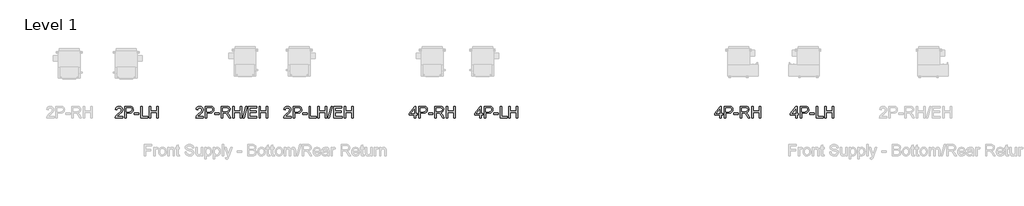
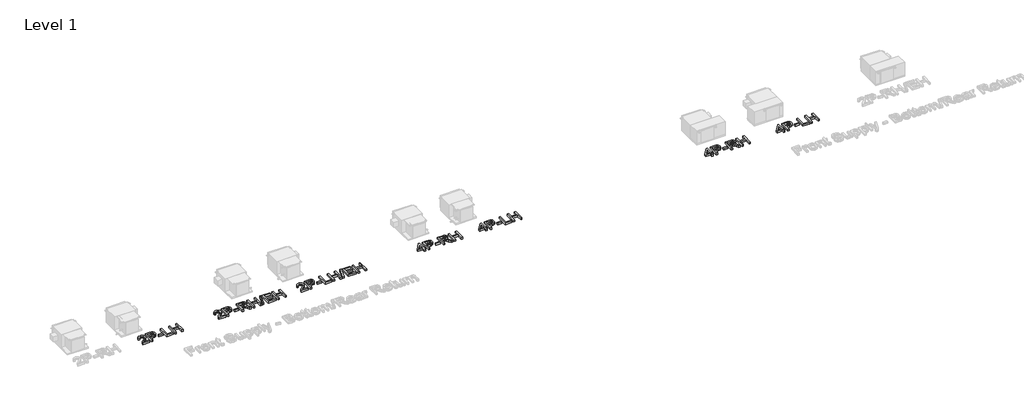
# One storey, part 3 of 5: 7 proxies.
"""IFC4 building model written with IfcOpenShell, lengths in millimetres."""

import ifcopenshell
import ifcopenshell.guid

model = None  # the IFC model being written
_history = None  # IfcOwnerHistory: only IFC2X3 demands one
_inside = {}  # id of a spatial element -> (the spatial element, [elements in it])
_under = {}  # id of a project, library or spatial element -> (it, [spatial elements below it])
_declared = {}  # id of a project -> (the project, [libraries it declares])
_typed = {}  # id of a type object -> (the type object, [elements of that type])
_made_of = {}  # id of a material, layer set ... -> (it, [elements and type objects made of it])


def new_model(schema):
    """Start an empty IFC model of exactly this schema.

    Asked for "IFC4X3", IfcOpenShell would pick the latest addendum, in which some entities
    have other attributes; the version numbers below select the first issue.
    IFC2X3 requires an IfcOwnerHistory on every rooted entity: one is made here for all.
    """
    global model, _history
    if schema == "IFC4X3":
        model = ifcopenshell.file(schema_version=(4, 3, 0, 0))
    else:
        model = ifcopenshell.file(schema=schema)
    _inside.clear()
    _under.clear()
    _declared.clear()
    _typed.clear()
    _made_of.clear()
    _history = None
    if model.schema == "IFC2X3":
        org = make("IfcOrganization", Name="unknown")
        user = make(
            "IfcPersonAndOrganization",
            ThePerson=make("IfcPerson", FamilyName="unknown"),
            TheOrganization=org,
        )
        app = make(
            "IfcApplication",
            ApplicationDeveloper=org,
            Version="unknown",
            ApplicationFullName="unknown",
            ApplicationIdentifier="unknown",
        )
        _history = make(
            "IfcOwnerHistory",
            OwningUser=user,
            OwningApplication=app,
            ChangeAction="ADDED",
            CreationDate=0,
        )
    return model


def make(cls, **values):
    """One entity of the class cls with the attributes given. An attribute that is None is left unset."""
    return model.create_entity(
        cls, **{name: value for name, value in values.items() if value is not None}
    )


def rooted(cls, **values):
    """An entity with a GlobalId (a new one), such as an element, a storey or a relation."""
    return make(cls, GlobalId=ifcopenshell.guid.new(), OwnerHistory=_history, **values)


def si_unit(unit_type, name, prefix=None):
    """IfcSIUnit, for example si_unit("LENGTHUNIT", "METRE", prefix="MILLI")."""
    return make("IfcSIUnit", UnitType=unit_type, Prefix=prefix, Name=name)


def assignment(units):
    """IfcUnitAssignment: the units of a project."""
    return None if units is None else make("IfcUnitAssignment", Units=units)


def point(xyz):
    """IfcCartesianPoint."""
    return None if xyz is None else make("IfcCartesianPoint", Coordinates=xyz)


def direction(xyz):
    """IfcDirection."""
    return None if xyz is None else make("IfcDirection", DirectionRatios=xyz)


def frame(location, z_axis=None, x_axis=None):
    """IfcAxis2Placement3D, a coordinate frame: its origin and axes. An axis left out is left unset."""
    return make(
        "IfcAxis2Placement3D",
        Location=point(location),
        Axis=direction(z_axis),
        RefDirection=direction(x_axis),
    )


def origin():
    """The frame at (0, 0, 0) with its axes left unset."""
    return frame((0.0, 0.0, 0.0))


def origin_with_axes():
    """The frame at (0, 0, 0) with the z axis (0, 0, 1) and the x axis (1, 0, 0) written out."""
    return frame((0.0, 0.0, 0.0), z_axis=(0.0, 0.0, 1.0), x_axis=(1.0, 0.0, 0.0))


def place(relative_to, where):
    """IfcLocalPlacement: puts the frame where relative to a parent placement (None: the world)."""
    return make(
        "IfcLocalPlacement", PlacementRelTo=relative_to, RelativePlacement=where
    )


def context(
    kind, dimensions, precision=None, world=None, true_north=None, identifier=None
):
    """IfcGeometricRepresentationContext, for example the 3D "Model" context."""
    return make(
        "IfcGeometricRepresentationContext",
        ContextIdentifier=identifier,
        ContextType=kind,
        CoordinateSpaceDimension=dimensions,
        Precision=precision,
        WorldCoordinateSystem=world,
        TrueNorth=true_north,
    )


def project(units=None, contexts=None):
    """IfcProject with its units and contexts."""
    return rooted(
        "IfcProject",
        Name="project",
        RepresentationContexts=contexts,
        UnitsInContext=assignment(units),
    )


def spatial(cls, under=None, at=None, **own):
    """A site, building, storey or space (cls), placed at a placement, below another one or the project."""
    s = rooted(cls, ObjectPlacement=at, **own)
    if under is not None:
        _under.setdefault(under.id(), (under, []))[1].append(s)
    return s


def polyline(points):
    """IfcPolyline through the points."""
    return make("IfcPolyline", Points=[point(p) for p in points])


def outline(outer, holes=None, kind="AREA"):
    """IfcArbitraryClosedProfileDef: a profile drawn as a closed curve; with holes, ...WithVoids."""
    if holes is None:
        return make("IfcArbitraryClosedProfileDef", ProfileType=kind, OuterCurve=outer)
    return make(
        "IfcArbitraryProfileDefWithVoids",
        ProfileType=kind,
        OuterCurve=outer,
        InnerCurves=holes,
    )


def extrude(swept, where, along, depth):
    """IfcExtrudedAreaSolid: the profile swept, set in the frame where, extruded along a direction by depth."""
    return make(
        "IfcExtrudedAreaSolid",
        SweptArea=swept,
        Position=where,
        ExtrudedDirection=direction(along),
        Depth=depth,
    )


def shape(context_of_items, identifier, shape_type, items):
    """IfcShapeRepresentation: the items that make up one representation, for example the "Body"."""
    return make(
        "IfcShapeRepresentation",
        ContextOfItems=context_of_items,
        RepresentationIdentifier=identifier,
        RepresentationType=shape_type,
        Items=items,
    )


def made_of(thing, what):
    """Note that an element or type object is made of a material, layer set ...; save() writes the relation."""
    if what is not None:
        _made_of.setdefault(what.id(), (what, []))[1].append(thing)
    return thing


def element(
    cls,
    number,
    at=None,
    inside=None,
    cuts=None,
    type_object=None,
    material=None,
    context=None,
    identifier="Body",
    shape_type=None,
    held_by="IfcProductDefinitionShape",
    body=None,
    shapes=None,
    **own,
):
    """One element of the class cls, such as IfcWall. Its Tag is "e" and its number.

    at: its placement. inside: the storey or other place that contains it. cuts: it is an
    opening in that element (IfcRelVoidsElement). A single representation is given by context,
    identifier, shape_type and body (its items); several are given by shapes. held_by: the class
    of the entity that holds the representations. save() writes the other relations.
    """
    e = rooted(cls, Tag="e%d" % number, ObjectPlacement=at, **own)
    if body is not None:
        shapes = [shape(context, identifier, shape_type, body)]
    if shapes is not None:
        e.Representation = make(held_by, Representations=shapes)
    if inside is not None:
        _inside.setdefault(inside.id(), (inside, []))[1].append(e)
    if cuts is not None:
        rooted(
            "IfcRelVoidsElement", RelatingBuildingElement=cuts, RelatedOpeningElement=e
        )
    if type_object is not None:
        _typed.setdefault(type_object.id(), (type_object, []))[1].append(e)
    return made_of(e, material)


def aggregate(whole, parts):
    """IfcRelAggregates: a whole, such as a stair, and the parts it consists of."""
    return rooted("IfcRelAggregates", RelatingObject=whole, RelatedObjects=parts)


def save(model, path):
    """Write the relations noted so far, then the file.

    IfcRelAggregates (storeys below a building ...), IfcRelContainedInSpatialStructure (elements
    in a storey), IfcRelDefinesByType, IfcRelAssociatesMaterial and IfcRelDeclares: one each for
    every whole, place, type object, material and project.
    """
    for whole, parts in _under.values():
        aggregate(whole, parts)
    for where, things in _inside.values():
        rooted(
            "IfcRelContainedInSpatialStructure",
            RelatedElements=things,
            RelatingStructure=where,
        )
    for kind, things in _typed.values():
        rooted("IfcRelDefinesByType", RelatedObjects=things, RelatingType=kind)
    for what, things in _made_of.values():
        rooted("IfcRelAssociatesMaterial", RelatedObjects=things, RelatingMaterial=what)
    for by, libraries in _declared.values():
        rooted("IfcRelDeclares", RelatingContext=by, RelatedDefinitions=libraries)
    model.write(path)


model = new_model("IFC4")

# Units and contexts
model_context = context("Model", 3, world=origin())
ifc_project = project(units=[si_unit("LENGTHUNIT", "METRE", prefix="MILLI")], contexts=[model_context])

# Site, building, storey
site = spatial("IfcSite", under=ifc_project)
building = spatial("IfcBuilding", under=site)
storey = spatial("IfcBuildingStorey", under=building, Name="Level 1", Elevation=0.0)

# Proxies
placement = place(None, origin())
element("IfcBuildingElementProxy", 1, Name="24\" Arial", ObjectType="24\" Arial", at=placement, inside=storey, context=model_context, shape_type="SweptSolid", body=[
    extrude(outline(polyline([(-27817.7253142, -9425.9108404), (-27817.7253142, -9463.9817271), (-28017.5974697, -9463.9817271), (-28013.5078237, -9437.7336353), (-28004.1202271, -9417.2203425), (-27990.3827342, -9397.3204967), (-27970.5107724, -9376.4911859), (-27942.7197686, -9353.1894981), (-27901.6374152, -9316.6987018), (-27876.9880032, -9289.7628059), (-27864.6632972, -9267.9017889), (-27860.5550618, -9246.6356295), (-27864.4309309, -9227.5723022), (-27876.0585382, -9211.7249238), (-27893.9321503, -9201.0453708), (-27916.5460339, -9197.4855198), (-27940.2938649, -9200.961719), (-27958.7437453, -9211.3903164), (-27970.6501921, -9227.9533828), (-27974.7677221, -9249.8329891), (-28012.8386089, -9245.0741283), (-28009.5645684, -9225.4205907), (-28003.6090213, -9208.2487246), (-27994.9719677, -9193.5585302), (-27983.6534076, -9181.3500073), (-27969.9135911, -9171.7532811), (-27954.0127684, -9164.8984766), (-27915.7281047, -9159.4146331), (-27895.3240241, -9160.9389557), (-27877.1646015, -9165.5119235), (-27861.2498369, -9173.1335366), (-27847.5797303, -9183.8037949), (-27836.6004249, -9196.7326532), (-27828.7580639, -9211.1300662), (-27824.0526473, -9226.9960339), (-27822.4841751, -9244.3305563), (-27824.1758014, -9262.5387758), (-27829.2506803, -9280.4309772), (-27838.2571963, -9298.6299021), (-27851.7437335, -9317.758292), (-27873.2422592, -9340.5952472), (-27906.2847402, -9369.9198682), (-27950.0811315, -9406.5407896), (-27967.2576448, -9425.9108404), (-27817.7253142, -9425.9108404)])), origin_with_axes(), (0.0, 0.0, 1.0), 50.8),
    extrude(outline(polyline([(-27765.3778449, -9463.9817271), (-27765.3778449, -9159.4146331), (-27652.5036143, -9159.4146331), (-27606.9970074, -9162.3145639), (-27586.7067863, -9167.7333449), (-27570.0043001, -9176.5539678), (-27556.5549414, -9189.1761026), (-27546.0241029, -9205.9994193), (-27539.220419, -9225.8434972), (-27536.9525244, -9247.5279159), (-27538.483818, -9266.2241045), (-27543.0776988, -9283.4238545), (-27550.7341668, -9299.1271659), (-27561.453222, -9313.3340385), (-27576.1689768, -9325.1103602), (-27595.8155434, -9333.5220185), (-27620.3929219, -9338.5690135), (-27649.9011122, -9340.2513452), (-27727.3069582, -9340.2513452), (-27727.3069582, -9463.9817271), (-27765.3778449, -9463.9817271)]), holes=[polyline([(-27727.3069582, -9302.1804584), (-27647.6703962, -9302.1804584), (-27613.9122271, -9298.68567), (-27591.6050669, -9288.2013047), (-27579.1688251, -9271.377988), (-27575.0234111, -9248.8663455), (-27577.4679041, -9231.7641893), (-27584.801383, -9217.3388924), (-27596.1129722, -9206.4827411), (-27610.4917959, -9200.0880218), (-27648.5626826, -9197.4855198), (-27727.3069582, -9197.4855198), (-27727.3069582, -9302.1804584)])]), origin_with_axes(), (0.0, 0.0, 1.0), 50.8),
    extrude(outline(polyline([(-27508.3993593, -9373.5633711), (-27508.3993593, -9335.4924843), (-27389.4278382, -9335.4924843), (-27389.4278382, -9373.5633711), (-27508.3993593, -9373.5633711)])), origin_with_axes(), (0.0, 0.0, 1.0), 50.8),
    extrude(outline(polyline([(-27341.8392297, -9463.9817271), (-27341.8392297, -9159.4146331), (-27303.768343, -9159.4146331), (-27303.768343, -9425.9108404), (-27151.4847959, -9425.9108404), (-27151.4847959, -9463.9817271), (-27341.8392297, -9463.9817271)])), origin_with_axes(), (0.0, 0.0, 1.0), 50.8),
    extrude(outline(polyline([(-27108.6550483, -9463.9817271), (-27108.6550483, -9159.4146331), (-27070.5841616, -9159.4146331), (-27070.5841616, -9283.145015), (-26908.7828929, -9283.145015), (-26908.7828929, -9159.4146331), (-26870.7120061, -9159.4146331), (-26870.7120061, -9463.9817271), (-26908.7828929, -9463.9817271), (-26908.7828929, -9321.2159018), (-27070.5841616, -9321.2159018), (-27070.5841616, -9463.9817271), (-27108.6550483, -9463.9817271)])), origin_with_axes(), (0.0, 0.0, 1.0), 50.8),
])
element("IfcBuildingElementProxy", 2, Name="24\" Arial", ObjectType="24\" Arial", at=placement, inside=storey, context=model_context, shape_type="SweptSolid", body=[
    extrude(outline(polyline([(-25666.6607584, -9425.9108404), (-25666.6607584, -9463.9817271), (-25866.5329139, -9463.9817271), (-25862.4432679, -9437.7336353), (-25853.0556713, -9417.2203425), (-25839.3181784, -9397.3204967), (-25819.4462166, -9376.4911859), (-25791.6552128, -9353.1894981), (-25750.5728594, -9316.6987018), (-25725.9234474, -9289.7628059), (-25713.5987414, -9267.9017889), (-25709.490506, -9246.6356295), (-25713.3663751, -9227.5723022), (-25724.9939824, -9211.7249238), (-25742.8675945, -9201.0453708), (-25765.4814781, -9197.4855198), (-25789.2293091, -9200.961719), (-25807.6791895, -9211.3903164), (-25819.5856363, -9227.9533828), (-25823.7031663, -9249.8329891), (-25861.7740531, -9245.0741283), (-25858.5000126, -9225.4205907), (-25852.5444655, -9208.2487246), (-25843.9074119, -9193.5585302), (-25832.5888518, -9181.3500073), (-25818.8490353, -9171.7532811), (-25802.9482126, -9164.8984766), (-25764.6635489, -9159.4146331), (-25744.2594683, -9160.9389557), (-25726.1000457, -9165.5119235), (-25710.1852811, -9173.1335366), (-25696.5151745, -9183.8037949), (-25685.5358691, -9196.7326532), (-25677.6935081, -9211.1300662), (-25672.9880915, -9226.9960339), (-25671.4196193, -9244.3305563), (-25673.1112456, -9262.5387758), (-25678.1861245, -9280.4309772), (-25687.1926405, -9298.6299021), (-25700.6791777, -9317.758292), (-25722.1777034, -9340.5952472), (-25755.2201844, -9369.9198682), (-25799.0165757, -9406.5407896), (-25816.193089, -9425.9108404), (-25666.6607584, -9425.9108404)])), origin_with_axes(), (0.0, 0.0, 1.0), 50.8),
    extrude(outline(polyline([(-25614.3132891, -9463.9817271), (-25614.3132891, -9159.4146331), (-25501.4390585, -9159.4146331), (-25455.9324516, -9162.3145639), (-25435.6422305, -9167.7333449), (-25418.9397443, -9176.5539678), (-25405.4903856, -9189.1761026), (-25394.9595471, -9205.9994193), (-25388.1558632, -9225.8434972), (-25385.8879686, -9247.5279159), (-25387.4192622, -9266.2241045), (-25392.013143, -9283.4238545), (-25399.669611, -9299.1271659), (-25410.3886662, -9313.3340385), (-25425.104421, -9325.1103602), (-25444.7509876, -9333.5220185), (-25469.3283661, -9338.5690135), (-25498.8365564, -9340.2513452), (-25576.2424024, -9340.2513452), (-25576.2424024, -9463.9817271), (-25614.3132891, -9463.9817271)]), holes=[polyline([(-25576.2424024, -9302.1804584), (-25496.6058404, -9302.1804584), (-25462.8476713, -9298.68567), (-25440.5405111, -9288.2013047), (-25428.1042693, -9271.377988), (-25423.9588553, -9248.8663455), (-25426.4033483, -9231.7641893), (-25433.7368272, -9217.3388924), (-25445.0484164, -9206.4827411), (-25459.4272401, -9200.0880218), (-25497.4981268, -9197.4855198), (-25576.2424024, -9197.4855198), (-25576.2424024, -9302.1804584)])]), origin_with_axes(), (0.0, 0.0, 1.0), 50.8),
    extrude(outline(polyline([(-25357.3348035, -9373.5633711), (-25357.3348035, -9335.4924843), (-25238.3632824, -9335.4924843), (-25238.3632824, -9373.5633711), (-25357.3348035, -9373.5633711)])), origin_with_axes(), (0.0, 0.0, 1.0), 50.8),
    extrude(outline(polyline([(-25190.7746739, -9463.9817271), (-25190.7746739, -9159.4146331), (-25059.5342147, -9159.4146331), (-25024.2610176, -9161.4687507), (-24998.5984887, -9167.6311037), (-24979.8418848, -9179.0077554), (-24965.2864628, -9196.7047692), (-24955.9453395, -9218.6494381), (-24952.8316317, -9242.769055), (-24957.9901625, -9272.7721855), (-24973.4657549, -9297.6446692), (-24985.1886323, -9307.7804851), (-24999.7231414, -9315.8807726), (-25037.2270545, -9325.9747626), (-25015.5891091, -9342.2589896), (-24984.7308708, -9381.4452344), (-24933.9449027, -9463.9817271), (-24978.1874371, -9463.9817271), (-25017.8198251, -9400.8524637), (-25046.4473474, -9359.0637169), (-25066.5609702, -9339.3218802), (-25084.6669485, -9332.0720531), (-25106.7510371, -9330.7336235), (-25152.7037872, -9330.7336235), (-25152.7037872, -9463.9817271), (-25190.7746739, -9463.9817271)]), holes=[polyline([(-25152.7037872, -9292.6627367), (-25067.4904352, -9292.6627367), (-25043.0176215, -9291.3150125), (-25024.0286514, -9287.2718397), (-25009.7334795, -9280.2636735), (-24999.3420607, -9270.0209691), (-24993.012404, -9257.6312005), (-24990.9025185, -9244.1818419), (-24994.9271019, -9225.611131), (-25007.0008524, -9210.6467443), (-25027.7743953, -9200.775826), (-25057.8983563, -9197.4855198), (-25152.7037872, -9197.4855198), (-25152.7037872, -9292.6627367)])]), origin_with_axes(), (0.0, 0.0, 1.0), 50.8),
    extrude(outline(polyline([(-24886.2075799, -9463.9817271), (-24886.2075799, -9159.4146331), (-24848.1366931, -9159.4146331), (-24848.1366931, -9283.145015), (-24686.3354244, -9283.145015), (-24686.3354244, -9159.4146331), (-24648.2645376, -9159.4146331), (-24648.2645376, -9463.9817271), (-24686.3354244, -9463.9817271), (-24686.3354244, -9321.2159018), (-24848.1366931, -9321.2159018), (-24848.1366931, -9463.9817271), (-24886.2075799, -9463.9817271)])), origin_with_axes(), (0.0, 0.0, 1.0), 50.8),
    extrude(outline(polyline([(-24614.9525117, -9463.9817271), (-24529.2930165, -9159.4146331), (-24494.9399898, -9159.4146331), (-24580.599485, -9463.9817271), (-24614.9525117, -9463.9817271)])), origin_with_axes(), (0.0, 0.0, 1.0), 50.8),
    extrude(outline(polyline([(-24462.6689647, -9463.9817271), (-24462.6689647, -9159.4146331), (-24243.7613658, -9159.4146331), (-24243.7613658, -9197.4855198), (-24424.5980779, -9197.4855198), (-24424.5980779, -9287.9038759), (-24253.2790875, -9287.9038759), (-24253.2790875, -9325.9747626), (-24424.5980779, -9325.9747626), (-24424.5980779, -9425.9108404), (-24239.002505, -9425.9108404), (-24239.002505, -9463.9817271), (-24462.6689647, -9463.9817271)])), origin_with_axes(), (0.0, 0.0, 1.0), 50.8),
    extrude(outline(polyline([(-24181.8961748, -9463.9817271), (-24181.8961748, -9159.4146331), (-24143.8252881, -9159.4146331), (-24143.8252881, -9283.145015), (-23982.0240193, -9283.145015), (-23982.0240193, -9159.4146331), (-23943.9531326, -9159.4146331), (-23943.9531326, -9463.9817271), (-23982.0240193, -9463.9817271), (-23982.0240193, -9321.2159018), (-24143.8252881, -9321.2159018), (-24143.8252881, -9463.9817271), (-24181.8961748, -9463.9817271)])), origin_with_axes(), (0.0, 0.0, 1.0), 50.8),
])
element("IfcBuildingElementProxy", 3, Name="24\" Arial", ObjectType="24\" Arial", at=placement, inside=storey, context=model_context, shape_type="SweptSolid", body=[
    extrude(outline(polyline([(-23321.9631764, -9425.9108404), (-23321.9631764, -9463.9817271), (-23521.8353319, -9463.9817271), (-23517.7456859, -9437.7336353), (-23508.3580893, -9417.2203425), (-23494.6205964, -9397.3204967), (-23474.7486346, -9376.4911859), (-23446.9576308, -9353.1894981), (-23405.8752774, -9316.6987018), (-23381.2258654, -9289.7628059), (-23368.9011594, -9267.9017889), (-23364.792924, -9246.6356295), (-23368.6687931, -9227.5723022), (-23380.2964004, -9211.7249238), (-23398.1700125, -9201.0453708), (-23420.7838961, -9197.4855198), (-23444.5317271, -9200.961719), (-23462.9816075, -9211.3903164), (-23474.8880543, -9227.9533828), (-23479.0055843, -9249.8329891), (-23517.0764711, -9245.0741283), (-23513.8024306, -9225.4205907), (-23507.8468835, -9208.2487246), (-23499.2098299, -9193.5585302), (-23487.8912698, -9181.3500073), (-23474.1514533, -9171.7532811), (-23458.2506306, -9164.8984766), (-23419.9659669, -9159.4146331), (-23399.5618863, -9160.9389557), (-23381.4024637, -9165.5119235), (-23365.4876991, -9173.1335366), (-23351.8175925, -9183.8037949), (-23340.8382871, -9196.7326532), (-23332.9959261, -9211.1300662), (-23328.2905095, -9226.9960339), (-23326.7220373, -9244.3305563), (-23328.4136636, -9262.5387758), (-23333.4885425, -9280.4309772), (-23342.4950585, -9298.6299021), (-23355.9815957, -9317.758292), (-23377.4801214, -9340.5952472), (-23410.5226024, -9369.9198682), (-23454.3189937, -9406.5407896), (-23471.495507, -9425.9108404), (-23321.9631764, -9425.9108404)])), origin_with_axes(), (0.0, 0.0, 1.0), 50.8),
    extrude(outline(polyline([(-23269.6157071, -9463.9817271), (-23269.6157071, -9159.4146331), (-23156.7414765, -9159.4146331), (-23111.2348696, -9162.3145639), (-23090.9446485, -9167.7333449), (-23074.2421623, -9176.5539678), (-23060.7928036, -9189.1761026), (-23050.2619651, -9205.9994193), (-23043.4582812, -9225.8434972), (-23041.1903866, -9247.5279159), (-23042.7216802, -9266.2241045), (-23047.315561, -9283.4238545), (-23054.972029, -9299.1271659), (-23065.6910842, -9313.3340385), (-23080.406839, -9325.1103602), (-23100.0534056, -9333.5220185), (-23124.6307841, -9338.5690135), (-23154.1389744, -9340.2513452), (-23231.5448204, -9340.2513452), (-23231.5448204, -9463.9817271), (-23269.6157071, -9463.9817271)]), holes=[polyline([(-23231.5448204, -9302.1804584), (-23151.9082584, -9302.1804584), (-23118.1500893, -9298.68567), (-23095.8429291, -9288.2013047), (-23083.4066873, -9271.377988), (-23079.2612733, -9248.8663455), (-23081.7057663, -9231.7641893), (-23089.0392452, -9217.3388924), (-23100.3508344, -9206.4827411), (-23114.7296581, -9200.0880218), (-23152.8005448, -9197.4855198), (-23231.5448204, -9197.4855198), (-23231.5448204, -9302.1804584)])]), origin_with_axes(), (0.0, 0.0, 1.0), 50.8),
    extrude(outline(polyline([(-23012.6372215, -9373.5633711), (-23012.6372215, -9335.4924843), (-22893.6657004, -9335.4924843), (-22893.6657004, -9373.5633711), (-23012.6372215, -9373.5633711)])), origin_with_axes(), (0.0, 0.0, 1.0), 50.8),
    extrude(outline(polyline([(-22846.0770919, -9463.9817271), (-22846.0770919, -9159.4146331), (-22808.0062052, -9159.4146331), (-22808.0062052, -9425.9108404), (-22655.7226581, -9425.9108404), (-22655.7226581, -9463.9817271), (-22846.0770919, -9463.9817271)])), origin_with_axes(), (0.0, 0.0, 1.0), 50.8),
    extrude(outline(polyline([(-22612.8929105, -9463.9817271), (-22612.8929105, -9159.4146331), (-22574.8220238, -9159.4146331), (-22574.8220238, -9283.145015), (-22413.0207551, -9283.145015), (-22413.0207551, -9159.4146331), (-22374.9498683, -9159.4146331), (-22374.9498683, -9463.9817271), (-22413.0207551, -9463.9817271), (-22413.0207551, -9321.2159018), (-22574.8220238, -9321.2159018), (-22574.8220238, -9463.9817271), (-22612.8929105, -9463.9817271)])), origin_with_axes(), (0.0, 0.0, 1.0), 50.8),
    extrude(outline(polyline([(-22341.6378424, -9463.9817271), (-22255.9783472, -9159.4146331), (-22221.6253205, -9159.4146331), (-22307.2848157, -9463.9817271), (-22341.6378424, -9463.9817271)])), origin_with_axes(), (0.0, 0.0, 1.0), 50.8),
    extrude(outline(polyline([(-22189.3542953, -9463.9817271), (-22189.3542953, -9159.4146331), (-21970.4466965, -9159.4146331), (-21970.4466965, -9197.4855198), (-22151.2834086, -9197.4855198), (-22151.2834086, -9287.9038759), (-21979.9644182, -9287.9038759), (-21979.9644182, -9325.9747626), (-22151.2834086, -9325.9747626), (-22151.2834086, -9425.9108404), (-21965.6878356, -9425.9108404), (-21965.6878356, -9463.9817271), (-22189.3542953, -9463.9817271)])), origin_with_axes(), (0.0, 0.0, 1.0), 50.8),
    extrude(outline(polyline([(-21908.5815055, -9463.9817271), (-21908.5815055, -9159.4146331), (-21870.5106187, -9159.4146331), (-21870.5106187, -9283.145015), (-21708.70935, -9283.145015), (-21708.70935, -9159.4146331), (-21670.6384633, -9159.4146331), (-21670.6384633, -9463.9817271), (-21708.70935, -9463.9817271), (-21708.70935, -9321.2159018), (-21870.5106187, -9321.2159018), (-21870.5106187, -9463.9817271), (-21908.5815055, -9463.9817271)])), origin_with_axes(), (0.0, 0.0, 1.0), 50.8),
])
element("IfcBuildingElementProxy", 4, Name="24\" Arial", ObjectType="24\" Arial", at=placement, inside=storey, context=model_context, shape_type="SweptSolid", body=[
    extrude(outline(polyline([(-20038.2139042, -9463.9817271), (-20038.2139042, -9392.5988145), (-20176.2208687, -9392.5988145), (-20176.2208687, -9354.5279277), (-20028.6961825, -9164.1734939), (-20000.1430175, -9164.1734939), (-20000.1430175, -9354.5279277), (-19962.0721307, -9354.5279277), (-19962.0721307, -9392.5988145), (-20000.1430175, -9392.5988145), (-20000.1430175, -9463.9817271), (-20038.2139042, -9463.9817271)]), holes=[polyline([(-20038.2139042, -9354.5279277), (-20038.2139042, -9236.8948362), (-20129.3758323, -9354.5279277), (-20038.2139042, -9354.5279277)])]), origin_with_axes(), (0.0, 0.0, 1.0), 50.8),
    extrude(outline(polyline([(-19914.4835223, -9463.9817271), (-19914.4835223, -9159.4146331), (-19801.6092916, -9159.4146331), (-19756.1026848, -9162.3145639), (-19735.8124636, -9167.7333449), (-19719.1099774, -9176.5539678), (-19705.6606187, -9189.1761026), (-19695.1297802, -9205.9994193), (-19688.3260963, -9225.8434972), (-19686.0582017, -9247.5279159), (-19687.5894953, -9266.2241045), (-19692.1833761, -9283.4238545), (-19699.8398441, -9299.1271659), (-19710.5588993, -9313.3340385), (-19725.2746541, -9325.1103602), (-19744.9212207, -9333.5220185), (-19769.4985992, -9338.5690135), (-19799.0067896, -9340.2513452), (-19876.4126355, -9340.2513452), (-19876.4126355, -9463.9817271), (-19914.4835223, -9463.9817271)]), holes=[polyline([(-19876.4126355, -9302.1804584), (-19796.7760736, -9302.1804584), (-19763.0179044, -9298.68567), (-19740.7107442, -9288.2013047), (-19728.2745024, -9271.377988), (-19724.1290885, -9248.8663455), (-19726.5735814, -9231.7641893), (-19733.9070604, -9217.3388924), (-19745.2186495, -9206.4827411), (-19759.5974732, -9200.0880218), (-19797.66836, -9197.4855198), (-19876.4126355, -9197.4855198), (-19876.4126355, -9302.1804584)])]), origin_with_axes(), (0.0, 0.0, 1.0), 50.8),
    extrude(outline(polyline([(-19657.5050366, -9373.5633711), (-19657.5050366, -9335.4924843), (-19538.5335155, -9335.4924843), (-19538.5335155, -9373.5633711), (-19657.5050366, -9373.5633711)])), origin_with_axes(), (0.0, 0.0, 1.0), 50.8),
    extrude(outline(polyline([(-19490.9449071, -9463.9817271), (-19490.9449071, -9159.4146331), (-19359.7044478, -9159.4146331), (-19324.4312508, -9161.4687507), (-19298.7687219, -9167.6311037), (-19280.012118, -9179.0077554), (-19265.4566959, -9196.7047692), (-19256.1155726, -9218.6494381), (-19253.0018648, -9242.769055), (-19258.1603956, -9272.7721855), (-19273.635988, -9297.6446692), (-19285.3588654, -9307.7804851), (-19299.8933745, -9315.8807726), (-19337.3972876, -9325.9747626), (-19315.7593422, -9342.2589896), (-19284.9011039, -9381.4452344), (-19234.1151359, -9463.9817271), (-19278.3576703, -9463.9817271), (-19317.9900582, -9400.8524637), (-19346.6175805, -9359.0637169), (-19366.7312033, -9339.3218802), (-19384.8371817, -9332.0720531), (-19406.9212703, -9330.7336235), (-19452.8740203, -9330.7336235), (-19452.8740203, -9463.9817271), (-19490.9449071, -9463.9817271)]), holes=[polyline([(-19452.8740203, -9292.6627367), (-19367.6606683, -9292.6627367), (-19343.1878546, -9291.3150125), (-19324.1988845, -9287.2718397), (-19309.9037127, -9280.2636735), (-19299.5122939, -9270.0209691), (-19293.1826372, -9257.6312005), (-19291.0727516, -9244.1818419), (-19295.0973351, -9225.611131), (-19307.1710855, -9210.6467443), (-19327.9446285, -9200.775826), (-19358.0685894, -9197.4855198), (-19452.8740203, -9197.4855198), (-19452.8740203, -9292.6627367)])]), origin_with_axes(), (0.0, 0.0, 1.0), 50.8),
    extrude(outline(polyline([(-19186.377813, -9463.9817271), (-19186.377813, -9159.4146331), (-19148.3069262, -9159.4146331), (-19148.3069262, -9283.145015), (-18986.5056575, -9283.145015), (-18986.5056575, -9159.4146331), (-18948.4347708, -9159.4146331), (-18948.4347708, -9463.9817271), (-18986.5056575, -9463.9817271), (-18986.5056575, -9321.2159018), (-19148.3069262, -9321.2159018), (-19148.3069262, -9463.9817271), (-19186.377813, -9463.9817271)])), origin_with_axes(), (0.0, 0.0, 1.0), 50.8),
])
element("IfcBuildingElementProxy", 5, Name="24\" Arial", ObjectType="24\" Arial", at=placement, inside=storey, context=model_context, shape_type="SweptSolid", body=[
    extrude(outline(polyline([(-18290.5615001, -9463.9817271), (-18290.5615001, -9392.5988145), (-18428.5684646, -9392.5988145), (-18428.5684646, -9354.5279277), (-18281.0437784, -9164.1734939), (-18252.4906133, -9164.1734939), (-18252.4906133, -9354.5279277), (-18214.4197266, -9354.5279277), (-18214.4197266, -9392.5988145), (-18252.4906133, -9392.5988145), (-18252.4906133, -9463.9817271), (-18290.5615001, -9463.9817271)]), holes=[polyline([(-18290.5615001, -9354.5279277), (-18290.5615001, -9236.8948362), (-18381.7234282, -9354.5279277), (-18290.5615001, -9354.5279277)])]), origin_with_axes(), (0.0, 0.0, 1.0), 50.8),
    extrude(outline(polyline([(-18166.8311181, -9463.9817271), (-18166.8311181, -9159.4146331), (-18053.9568875, -9159.4146331), (-18008.4502806, -9162.3145639), (-17988.1600595, -9167.7333449), (-17971.4575733, -9176.5539678), (-17958.0082146, -9189.1761026), (-17947.4773761, -9205.9994193), (-17940.6736922, -9225.8434972), (-17938.4057976, -9247.5279159), (-17939.9370912, -9266.2241045), (-17944.530972, -9283.4238545), (-17952.18744, -9299.1271659), (-17962.9064952, -9313.3340385), (-17977.62225, -9325.1103602), (-17997.2688166, -9333.5220185), (-18021.8461951, -9338.5690135), (-18051.3543855, -9340.2513452), (-18128.7602314, -9340.2513452), (-18128.7602314, -9463.9817271), (-18166.8311181, -9463.9817271)]), holes=[polyline([(-18128.7602314, -9302.1804584), (-18049.1236694, -9302.1804584), (-18015.3655003, -9298.68567), (-17993.0583401, -9288.2013047), (-17980.6220983, -9271.377988), (-17976.4766843, -9248.8663455), (-17978.9211773, -9231.7641893), (-17986.2546562, -9217.3388924), (-17997.5662454, -9206.4827411), (-18011.9450691, -9200.0880218), (-18050.0159558, -9197.4855198), (-18128.7602314, -9197.4855198), (-18128.7602314, -9302.1804584)])]), origin_with_axes(), (0.0, 0.0, 1.0), 50.8),
    extrude(outline(polyline([(-17909.8526325, -9373.5633711), (-17909.8526325, -9335.4924843), (-17790.8811114, -9335.4924843), (-17790.8811114, -9373.5633711), (-17909.8526325, -9373.5633711)])), origin_with_axes(), (0.0, 0.0, 1.0), 50.8),
    extrude(outline(polyline([(-17743.292503, -9463.9817271), (-17743.292503, -9159.4146331), (-17705.2216162, -9159.4146331), (-17705.2216162, -9425.9108404), (-17552.9380692, -9425.9108404), (-17552.9380692, -9463.9817271), (-17743.292503, -9463.9817271)])), origin_with_axes(), (0.0, 0.0, 1.0), 50.8),
    extrude(outline(polyline([(-17510.1083216, -9463.9817271), (-17510.1083216, -9159.4146331), (-17472.0374348, -9159.4146331), (-17472.0374348, -9283.145015), (-17310.2361661, -9283.145015), (-17310.2361661, -9159.4146331), (-17272.1652793, -9159.4146331), (-17272.1652793, -9463.9817271), (-17310.2361661, -9463.9817271), (-17310.2361661, -9321.2159018), (-17472.0374348, -9321.2159018), (-17472.0374348, -9463.9817271), (-17510.1083216, -9463.9817271)])), origin_with_axes(), (0.0, 0.0, 1.0), 50.8),
])
element("IfcBuildingElementProxy", 6, Name="24\" Arial", ObjectType="24\" Arial", at=placement, inside=storey, context=model_context, shape_type="SweptSolid", body=[
    extrude(outline(polyline([(-11884.8139042, -9463.9817271), (-11884.8139042, -9392.5988145), (-12022.8208687, -9392.5988145), (-12022.8208687, -9354.5279277), (-11875.2961825, -9164.1734939), (-11846.7430175, -9164.1734939), (-11846.7430175, -9354.5279277), (-11808.6721307, -9354.5279277), (-11808.6721307, -9392.5988145), (-11846.7430175, -9392.5988145), (-11846.7430175, -9463.9817271), (-11884.8139042, -9463.9817271)]), holes=[polyline([(-11884.8139042, -9354.5279277), (-11884.8139042, -9236.8948362), (-11975.9758323, -9354.5279277), (-11884.8139042, -9354.5279277)])]), origin_with_axes(), (0.0, 0.0, 1.0), 50.8),
    extrude(outline(polyline([(-11761.0835223, -9463.9817271), (-11761.0835223, -9159.4146331), (-11648.2092916, -9159.4146331), (-11602.7026848, -9162.3145639), (-11582.4124636, -9167.7333449), (-11565.7099774, -9176.5539678), (-11552.2606187, -9189.1761026), (-11541.7297802, -9205.9994193), (-11534.9260963, -9225.8434972), (-11532.6582017, -9247.5279159), (-11534.1894953, -9266.2241045), (-11538.7833761, -9283.4238545), (-11546.4398441, -9299.1271659), (-11557.1588993, -9313.3340385), (-11571.8746541, -9325.1103602), (-11591.5212207, -9333.5220185), (-11616.0985992, -9338.5690135), (-11645.6067896, -9340.2513452), (-11723.0126355, -9340.2513452), (-11723.0126355, -9463.9817271), (-11761.0835223, -9463.9817271)]), holes=[polyline([(-11723.0126355, -9302.1804584), (-11643.3760736, -9302.1804584), (-11609.6179044, -9298.68567), (-11587.3107442, -9288.2013047), (-11574.8745024, -9271.377988), (-11570.7290885, -9248.8663455), (-11573.1735814, -9231.7641893), (-11580.5070604, -9217.3388924), (-11591.8186495, -9206.4827411), (-11606.1974732, -9200.0880218), (-11644.26836, -9197.4855198), (-11723.0126355, -9197.4855198), (-11723.0126355, -9302.1804584)])]), origin_with_axes(), (0.0, 0.0, 1.0), 50.8),
    extrude(outline(polyline([(-11504.1050366, -9373.5633711), (-11504.1050366, -9335.4924843), (-11385.1335155, -9335.4924843), (-11385.1335155, -9373.5633711), (-11504.1050366, -9373.5633711)])), origin_with_axes(), (0.0, 0.0, 1.0), 50.8),
    extrude(outline(polyline([(-11337.5449071, -9463.9817271), (-11337.5449071, -9159.4146331), (-11206.3044478, -9159.4146331), (-11171.0312508, -9161.4687507), (-11145.3687219, -9167.6311037), (-11126.612118, -9179.0077554), (-11112.0566959, -9196.7047692), (-11102.7155726, -9218.6494381), (-11099.6018648, -9242.769055), (-11104.7603956, -9272.7721855), (-11120.235988, -9297.6446692), (-11131.9588654, -9307.7804851), (-11146.4933745, -9315.8807726), (-11183.9972876, -9325.9747626), (-11162.3593422, -9342.2589896), (-11131.5011039, -9381.4452344), (-11080.7151359, -9463.9817271), (-11124.9576703, -9463.9817271), (-11164.5900582, -9400.8524637), (-11193.2175805, -9359.0637169), (-11213.3312033, -9339.3218802), (-11231.4371817, -9332.0720531), (-11253.5212703, -9330.7336235), (-11299.4740203, -9330.7336235), (-11299.4740203, -9463.9817271), (-11337.5449071, -9463.9817271)]), holes=[polyline([(-11299.4740203, -9292.6627367), (-11214.2606683, -9292.6627367), (-11189.7878546, -9291.3150125), (-11170.7988845, -9287.2718397), (-11156.5037127, -9280.2636735), (-11146.1122939, -9270.0209691), (-11139.7826372, -9257.6312005), (-11137.6727516, -9244.1818419), (-11141.6973351, -9225.611131), (-11153.7710855, -9210.6467443), (-11174.5446285, -9200.775826), (-11204.6685894, -9197.4855198), (-11299.4740203, -9197.4855198), (-11299.4740203, -9292.6627367)])]), origin_with_axes(), (0.0, 0.0, 1.0), 50.8),
    extrude(outline(polyline([(-11032.977813, -9463.9817271), (-11032.977813, -9159.4146331), (-10994.9069262, -9159.4146331), (-10994.9069262, -9283.145015), (-10833.1056575, -9283.145015), (-10833.1056575, -9159.4146331), (-10795.0347708, -9159.4146331), (-10795.0347708, -9463.9817271), (-10833.1056575, -9463.9817271), (-10833.1056575, -9321.2159018), (-10994.9069262, -9321.2159018), (-10994.9069262, -9463.9817271), (-11032.977813, -9463.9817271)])), origin_with_axes(), (0.0, 0.0, 1.0), 50.8),
])
element("IfcBuildingElementProxy", 7, Name="24\" Arial", ObjectType="24\" Arial", at=placement, inside=storey, context=model_context, shape_type="SweptSolid", body=[
    extrude(outline(polyline([(-9857.7615001, -9463.9817271), (-9857.7615001, -9392.5988145), (-9995.7684646, -9392.5988145), (-9995.7684646, -9354.5279277), (-9848.2437784, -9164.1734939), (-9819.6906133, -9164.1734939), (-9819.6906133, -9354.5279277), (-9781.6197266, -9354.5279277), (-9781.6197266, -9392.5988145), (-9819.6906133, -9392.5988145), (-9819.6906133, -9463.9817271), (-9857.7615001, -9463.9817271)]), holes=[polyline([(-9857.7615001, -9354.5279277), (-9857.7615001, -9236.8948362), (-9948.9234282, -9354.5279277), (-9857.7615001, -9354.5279277)])]), origin_with_axes(), (0.0, 0.0, 1.0), 50.8),
    extrude(outline(polyline([(-9734.0311181, -9463.9817271), (-9734.0311181, -9159.4146331), (-9621.1568875, -9159.4146331), (-9575.6502806, -9162.3145639), (-9555.3600595, -9167.7333449), (-9538.6575733, -9176.5539678), (-9525.2082146, -9189.1761026), (-9514.6773761, -9205.9994193), (-9507.8736922, -9225.8434972), (-9505.6057976, -9247.5279159), (-9507.1370912, -9266.2241045), (-9511.730972, -9283.4238545), (-9519.38744, -9299.1271659), (-9530.1064952, -9313.3340385), (-9544.82225, -9325.1103602), (-9564.4688166, -9333.5220185), (-9589.0461951, -9338.5690135), (-9618.5543855, -9340.2513452), (-9695.9602314, -9340.2513452), (-9695.9602314, -9463.9817271), (-9734.0311181, -9463.9817271)]), holes=[polyline([(-9695.9602314, -9302.1804584), (-9616.3236694, -9302.1804584), (-9582.5655003, -9298.68567), (-9560.2583401, -9288.2013047), (-9547.8220983, -9271.377988), (-9543.6766843, -9248.8663455), (-9546.1211773, -9231.7641893), (-9553.4546562, -9217.3388924), (-9564.7662454, -9206.4827411), (-9579.1450691, -9200.0880218), (-9617.2159558, -9197.4855198), (-9695.9602314, -9197.4855198), (-9695.9602314, -9302.1804584)])]), origin_with_axes(), (0.0, 0.0, 1.0), 50.8),
    extrude(outline(polyline([(-9477.0526325, -9373.5633711), (-9477.0526325, -9335.4924843), (-9358.0811114, -9335.4924843), (-9358.0811114, -9373.5633711), (-9477.0526325, -9373.5633711)])), origin_with_axes(), (0.0, 0.0, 1.0), 50.8),
    extrude(outline(polyline([(-9310.492503, -9463.9817271), (-9310.492503, -9159.4146331), (-9272.4216162, -9159.4146331), (-9272.4216162, -9425.9108404), (-9120.1380692, -9425.9108404), (-9120.1380692, -9463.9817271), (-9310.492503, -9463.9817271)])), origin_with_axes(), (0.0, 0.0, 1.0), 50.8),
    extrude(outline(polyline([(-9077.3083216, -9463.9817271), (-9077.3083216, -9159.4146331), (-9039.2374348, -9159.4146331), (-9039.2374348, -9283.145015), (-8877.4361661, -9283.145015), (-8877.4361661, -9159.4146331), (-8839.3652793, -9159.4146331), (-8839.3652793, -9463.9817271), (-8877.4361661, -9463.9817271), (-8877.4361661, -9321.2159018), (-9039.2374348, -9321.2159018), (-9039.2374348, -9463.9817271), (-9077.3083216, -9463.9817271)])), origin_with_axes(), (0.0, 0.0, 1.0), 50.8),
])

save(model, "model.ifc")
